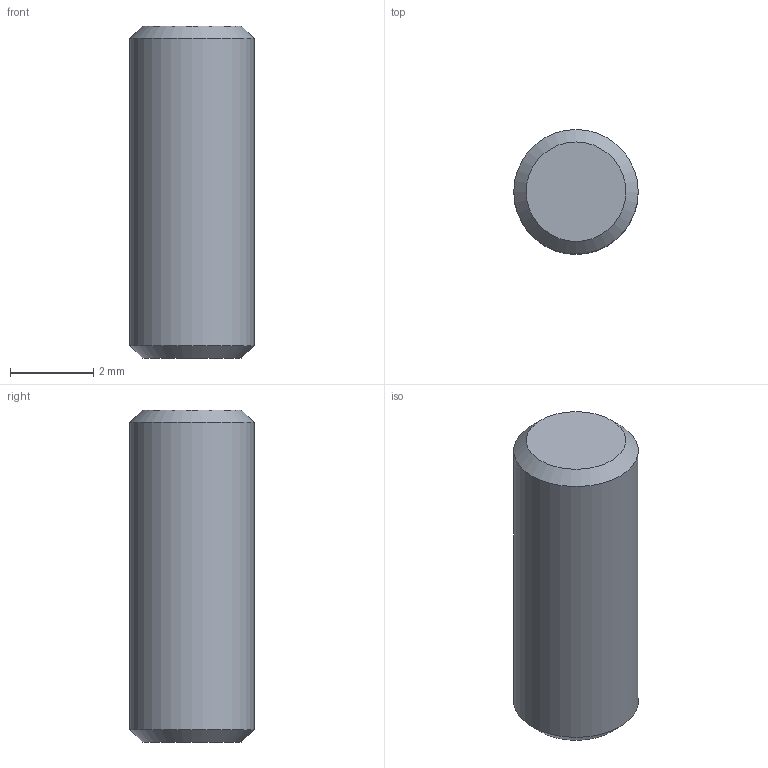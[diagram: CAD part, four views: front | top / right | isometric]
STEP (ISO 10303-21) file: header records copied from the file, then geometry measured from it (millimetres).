
FILE_DESCRIPTION(('Open CASCADE Model'),'2;1');
FILE_NAME('19_Pin_D3_1','2026-10-20T19:44:38',('Author'),('Open CASCADE' ),'Open CASCADE STEP processor 8.0','build123d','Unknown');
FILE_SCHEMA(('AUTOMOTIVE_DESIGN { 1 0 10303 214 1 1 1 1 }'));
Length unit declared in the file: millimetre
Products named in the file (2): 19_Pin_D3_1
Assembly tree (1 placements, depth 2):
  19_Pin_D3_1
    19_Pin_D3_1
Bounding box: 3 x 3 x 8 mm (x, y, z)
Volume: 55.8 mm3; surface area: 86 mm2
Topology: 1 solids, 1 shells, 5 faces, 7 edges, 4 vertices
Faces by surface type: cone 2, plane 2, cylinder 1
Full cylindrical faces by diameter (mm): 3 x1
Entity records: 248 total; most frequent: CARTESIAN_POINT 36, DIRECTION 35, ORIENTED_EDGE 14, PCURVE 14, DEFINITIONAL_REPRESENTATION 14, AXIS2_PLACEMENT_3D 11, LINE 11, VECTOR 11
